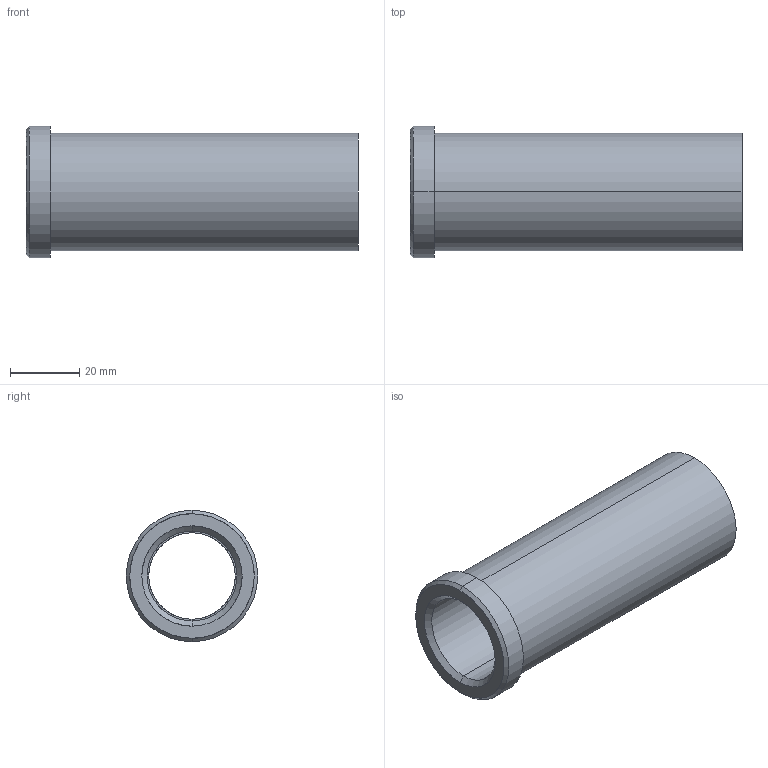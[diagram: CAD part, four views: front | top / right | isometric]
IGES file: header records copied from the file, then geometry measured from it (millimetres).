
Start section: START RECORD GO HERE.
Global section: file name: 353-25X96.igs; native system: DASSAULT SYSTEMES CATIA V5 R20 - www.3ds.com; preprocessor: CATIA Version 5 Release 20 ; author: Utente; organization: NB04-ASUS; date: 20210512.203940; units: millimetre
Bounding box: 96 x 38 x 38 mm (x, y, z)
Surface area: 19107.2 mm2 (no closed solid volume)
Topology: 0 solids, 0 shells, 18 faces, 116 edges, 116 vertices
Faces by surface type: revolution 14, plane 4
